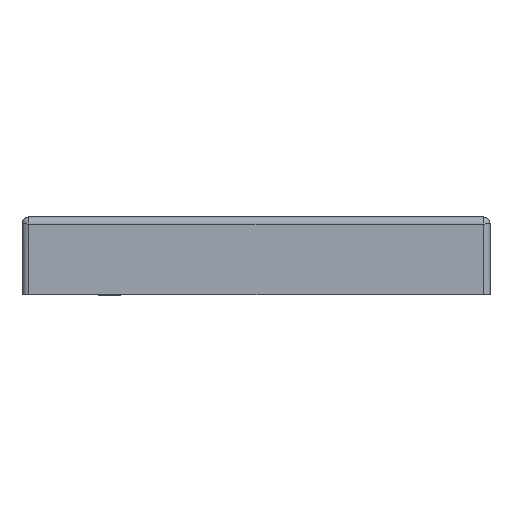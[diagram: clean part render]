
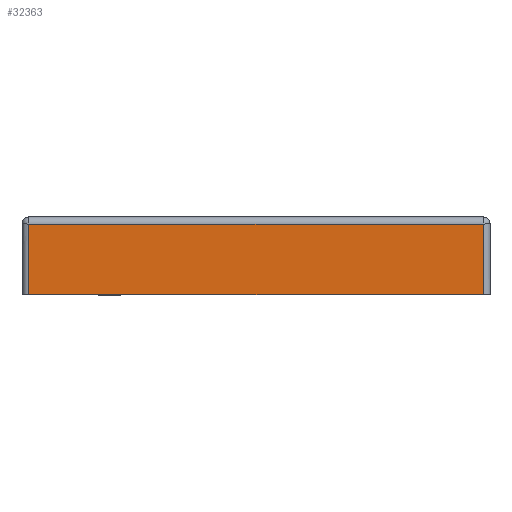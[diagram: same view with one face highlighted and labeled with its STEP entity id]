
A CAD part, front view. The second image highlights one B-rep face of the part: STEP entity #32363.
In plain terms, the highlighted planar face has unit normal (0, -1, -0.018).
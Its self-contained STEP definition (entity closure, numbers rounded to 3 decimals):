
#11218=DIRECTION('',(1.,0.,0.));
#11219=VECTOR('',#11218,99.);
#11220=CARTESIAN_POINT('',(-12.492,-172.706,
0.));
#11221=LINE('',#11220,#11219);
#11222=DIRECTION('',(-1.,0.,0.));
#11223=VECTOR('',#11222,99.);
#11224=CARTESIAN_POINT('',(86.508,-172.436,
-15.474));
#11225=LINE('',#11224,#11223);
#11250=CARTESIAN_POINT('',(86.508,-172.436,
-15.474));
#11259=DIRECTION('',(0.,0.017,-1.));
#11260=VECTOR('',#11259,15.476);
#11261=CARTESIAN_POINT('',(86.508,-172.706,
0.));
#11262=LINE('',#11261,#11260);
#11613=DIRECTION('',(0.,-0.017,1.));
#11614=VECTOR('',#11613,15.476);
#11615=CARTESIAN_POINT('',(-12.492,-172.436,-15.474));
#11616=LINE('',#11615,#11614);
#11624=CARTESIAN_POINT('',(-12.492,-172.436,-15.474));
#15485=VERTEX_POINT('',#11250);
#16113=CARTESIAN_POINT('',(86.508,-172.706,
0.));
#16114=VERTEX_POINT('',#16113);
#16274=VERTEX_POINT('',#11624);
#17096=CARTESIAN_POINT('',(-12.492,-172.706,
0.));
#17097=VERTEX_POINT('',#17096);
#32349=CARTESIAN_POINT('',(37.008,-172.571,
-7.737));
#32350=DIRECTION('',(0.,1.,0.017));
#32351=DIRECTION('',(0.,0.017,-1.));
#32352=AXIS2_PLACEMENT_3D('',#32349,#32350,#32351);
#32353=PLANE('',#32352);
#32355=ORIENTED_EDGE('',*,*,#32354,.T.);
#32357=ORIENTED_EDGE('',*,*,#32356,.T.);
#32358=ORIENTED_EDGE('',*,*,#20974,.T.);
#32360=ORIENTED_EDGE('',*,*,#32359,.T.);
#32361=EDGE_LOOP('',(#32355,#32357,#32358,#32360));
#32362=FACE_OUTER_BOUND('',#32361,.F.);
#32363=ADVANCED_FACE('',(#32362),#32353,.F.);
#20974=EDGE_CURVE('',#15485,#16274,#11225,.T.);
#32354=EDGE_CURVE('',#17097,#16114,#11221,.T.);
#32356=EDGE_CURVE('',#16114,#15485,#11262,.T.);
#32359=EDGE_CURVE('',#16274,#17097,#11616,.T.);
